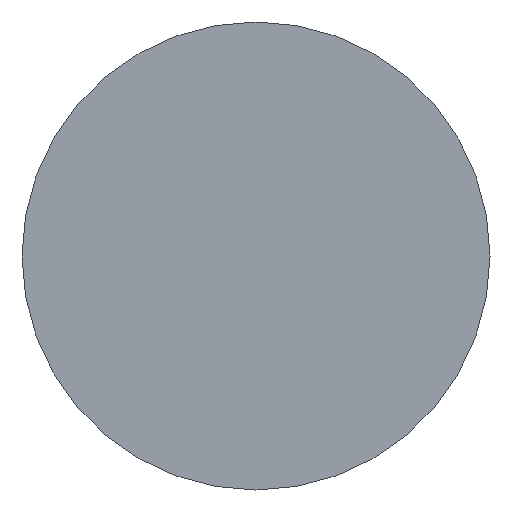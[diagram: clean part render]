
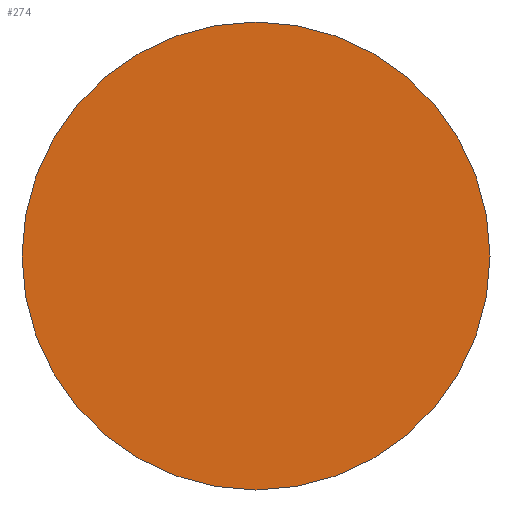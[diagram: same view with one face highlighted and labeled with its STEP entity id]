
A CAD part, left-side view. The second image highlights one B-rep face of the part: STEP entity #274.
In plain terms, the highlighted planar face has unit normal (-1, 0, 0).
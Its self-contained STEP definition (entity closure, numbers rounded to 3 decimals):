
#3 = ORIENTED_EDGE ( 'NONE', *, *, #241, .T. ) ;
#20 = DIRECTION ( 'NONE',  ( -1., 0., 0. ) ) ;
#28 = CARTESIAN_POINT ( 'NONE',  ( 0., 0., 0. ) ) ;
#73 = DIRECTION ( 'NONE',  ( 0., 0., -1. ) ) ;
#75 = DIRECTION ( 'NONE',  ( 0., 0., 1. ) ) ;
#77 = CIRCLE ( 'NONE', #96, 1.5 ) ;
#89 = EDGE_LOOP ( 'NONE', ( #192, #3 ) ) ;
#96 = AXIS2_PLACEMENT_3D ( 'NONE', #28, #20, #118 ) ;
#99 = VERTEX_POINT ( 'NONE', #176 ) ;
#107 = DIRECTION ( 'NONE',  ( 1., 0., 0. ) ) ;
#118 = DIRECTION ( 'NONE',  ( 0., 0., 1. ) ) ;
#122 = PLANE ( 'NONE',  #207 ) ;
#126 = VERTEX_POINT ( 'NONE', #222 ) ;
#144 = FACE_OUTER_BOUND ( 'NONE', #89, .T. ) ;
#172 = DIRECTION ( 'NONE',  ( -1., 0., 0. ) ) ;
#176 = CARTESIAN_POINT ( 'NONE',  ( 0., 0., 1.5 ) ) ;
#192 = ORIENTED_EDGE ( 'NONE', *, *, #267, .T. ) ;
#198 = CIRCLE ( 'NONE', #279, 1.5 ) ;
#207 = AXIS2_PLACEMENT_3D ( 'NONE', #212, #107, #73 ) ;
#212 = CARTESIAN_POINT ( 'NONE',  ( 0., 0., 0. ) ) ;
#222 = CARTESIAN_POINT ( 'NONE',  ( 0., 0., -1.5 ) ) ;
#241 = EDGE_CURVE ( 'NONE', #126, #99, #77, .T. ) ;
#247 = CARTESIAN_POINT ( 'NONE',  ( 0., 0., 0. ) ) ;
#267 = EDGE_CURVE ( 'NONE', #99, #126, #198, .T. ) ;
#274 = ADVANCED_FACE ( 'NONE', ( #144 ), #122, .F. ) ;
#279 = AXIS2_PLACEMENT_3D ( 'NONE', #247, #172, #75 ) ;
